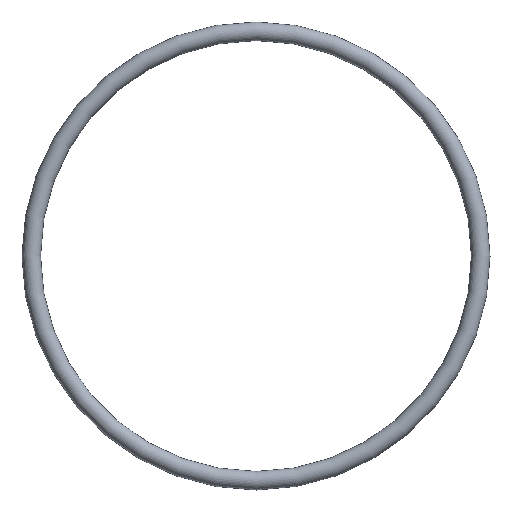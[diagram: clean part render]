
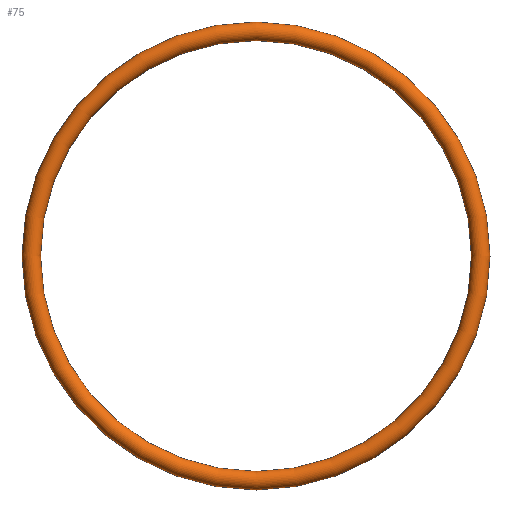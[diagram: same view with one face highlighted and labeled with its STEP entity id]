
A CAD part, front view. The second image highlights one B-rep face of the part: STEP entity #75.
In plain terms, the highlighted toroidal (fillet/blend) face has major radius 19.35 mm and minor radius 0.8 mm.
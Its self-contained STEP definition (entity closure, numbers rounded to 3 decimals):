
#75 = ADVANCED_FACE( '', ( #77 ), #78, .T. );
#77 = FACE_BOUND( '', #79, .T. );
#78 = TOROIDAL_SURFACE( '', #80, 19.35, 0.8 );
#79 = VERTEX_LOOP( '', #81 );
#80 = AXIS2_PLACEMENT_3D( '', #82, #83, #84 );
#81 = VERTEX_POINT( '', #85 );
#82 = CARTESIAN_POINT( '', ( 0., 0., 0. ) );
#83 = DIRECTION( '', ( 0., -1., 0. ) );
#84 = DIRECTION( '', ( 0., 0., -1. ) );
#85 = CARTESIAN_POINT( '', ( 0., 0., -20.15 ) );
